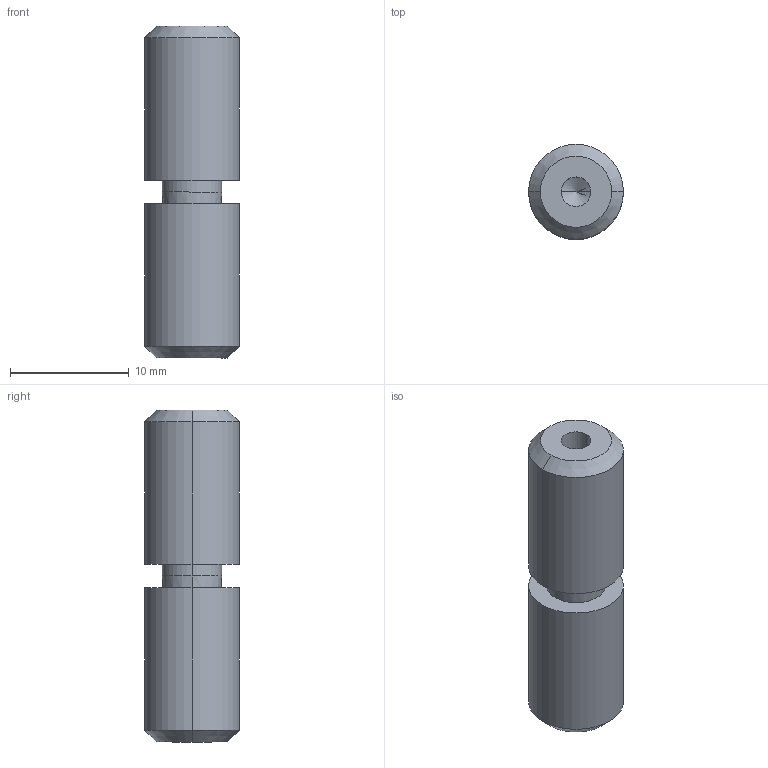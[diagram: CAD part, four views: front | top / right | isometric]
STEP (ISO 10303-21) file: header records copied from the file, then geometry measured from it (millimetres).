
FILE_DESCRIPTION (( 'STEP AP214' ), '1' );
FILE_NAME ('VTPN8-1.STEP', '2024-05-30T21:29:12', ( '' ), ( '' ), 'SwSTEP 2.0', 'SolidWorks 2017', '' );
FILE_SCHEMA (( 'AUTOMOTIVE_DESIGN' ));
Length unit declared in the file: millimetre
Products named in the file (3): VTPN8-1; VTPNP8-1; VTPNB8-1
Assembly tree (2 placements, depth 2):
  VTPN8-1
    VTPNP8-1
    VTPNB8-1
Bounding box: 8 x 8 x 28 mm (x, y, z)
Volume: 1184 mm3; surface area: 1125.3 mm2
Topology: 2 solids, 2 shells, 31 faces, 62 edges, 35 vertices
Faces by surface type: cylinder 12, cone 12, plane 5, torus 2
Entity records: 948 total; most frequent: DIRECTION 168, CARTESIAN_POINT 131, ORIENTED_EDGE 120, AXIS2_PLACEMENT_3D 72, EDGE_CURVE 60, CIRCLE 36, VERTEX_POINT 35, EDGE_LOOP 35
